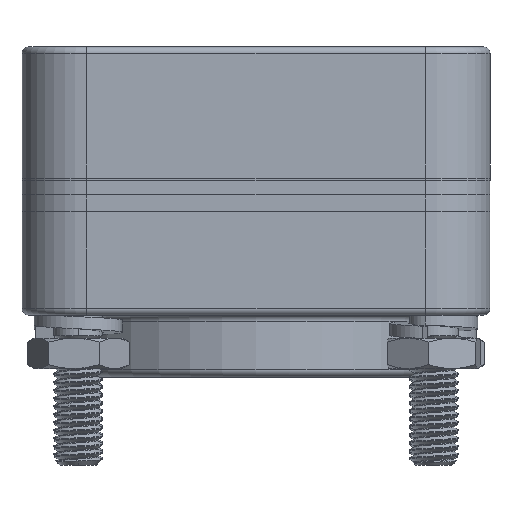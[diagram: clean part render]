
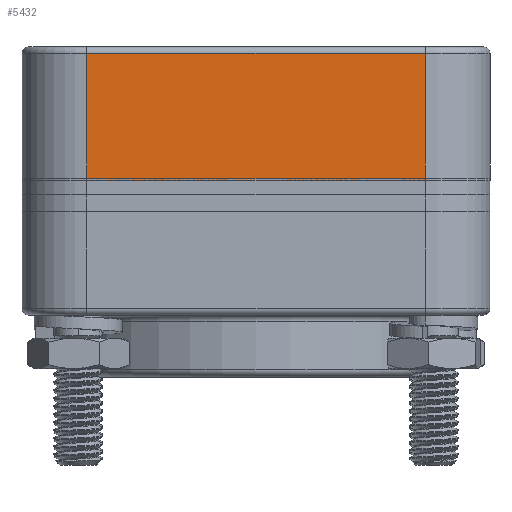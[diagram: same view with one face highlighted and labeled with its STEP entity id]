
A CAD part, front view. The second image highlights one B-rep face of the part: STEP entity #5432.
In plain terms, the highlighted planar face has unit normal (0, -1, 0).
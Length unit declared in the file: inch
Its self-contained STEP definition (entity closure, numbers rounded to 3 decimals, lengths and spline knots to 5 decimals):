
#1346=VECTOR('',#6433,1.);
#1442=VECTOR('',#6603,1.);
#1443=VECTOR('',#6607,1.);
#1444=VECTOR('',#6608,1.);
#1593=LINE('',#45882,#1346);
#1689=LINE('',#70494,#1442);
#1690=LINE('',#70498,#1443);
#1691=LINE('',#70500,#1444);
#1918=PLANE('',#5757);
#2322=VERTEX_POINT('',#45869);
#2326=VERTEX_POINT('',#45881);
#2431=VERTEX_POINT('',#70495);
#2432=VERTEX_POINT('',#70499);
#3061=EDGE_CURVE('',#2326,#2322,#1593,.T.);
#3221=EDGE_CURVE('',#2431,#2322,#1689,.T.);
#3223=EDGE_CURVE('',#2432,#2326,#1690,.T.);
#3224=EDGE_CURVE('',#2432,#2431,#1691,.T.);
#4521=ORIENTED_EDGE('',*,*,#3061,.F.);
#4522=ORIENTED_EDGE('',*,*,#3223,.F.);
#4523=ORIENTED_EDGE('',*,*,#3224,.T.);
#4524=ORIENTED_EDGE('',*,*,#3221,.T.);
#4851=EDGE_LOOP('',(#4521,#4522,#4523,#4524));
#5164=FACE_BOUND('',#4851,.T.);
#5432=ADVANCED_FACE('',(#5164),#1918,.T.);
#5757=AXIS2_PLACEMENT_3D('',#70497,#6606,$);
#6433=DIRECTION('',(1.,0.,0.));
#6603=DIRECTION('',(0.,0.,1.));
#6606=DIRECTION('',(0.,-1.,0.));
#6607=DIRECTION('',(0.,0.,1.));
#6608=DIRECTION('',(1.,0.,0.));
#45869=CARTESIAN_POINT('',(3.3274,-4.5974,2.4892));
#45881=CARTESIAN_POINT('',(-3.3274,-4.5974,2.4892));
#45882=CARTESIAN_POINT('',(0.,-4.5974,2.4892));
#70494=CARTESIAN_POINT('',(3.3274,-4.5974,0.));
#70495=CARTESIAN_POINT('',(3.3274,-4.5974,0.));
#70497=CARTESIAN_POINT('',(0.,-4.5974,0.));
#70498=CARTESIAN_POINT('',(-3.3274,-4.5974,0.));
#70499=CARTESIAN_POINT('',(-3.3274,-4.5974,0.));
#70500=CARTESIAN_POINT('',(-3.3274,-4.5974,0.));
